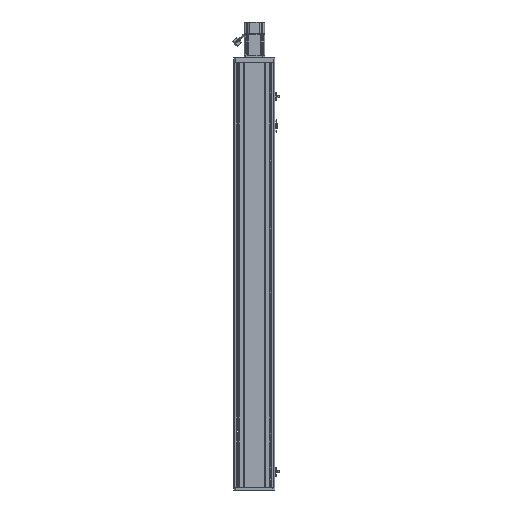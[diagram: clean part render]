
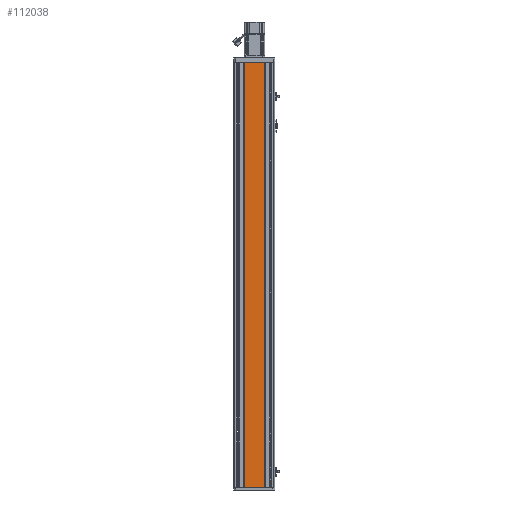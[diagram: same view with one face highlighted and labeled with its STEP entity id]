
A CAD part, front view. The second image highlights one B-rep face of the part: STEP entity #112038.
In plain terms, the highlighted planar face has unit normal (0, -1, 0).
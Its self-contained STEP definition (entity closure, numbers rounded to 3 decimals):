
#482 = DIRECTION ( 'NONE',  ( 0., 0., 1. ) ) ;
#4554 = LINE ( 'NONE', #93142, #69941 ) ;
#4802 = DIRECTION ( 'NONE',  ( -1., 0., 0. ) ) ;
#5593 = AXIS2_PLACEMENT_3D ( 'NONE', #67517, #21201, #86200 ) ;
#7280 = VERTEX_POINT ( 'NONE', #8672 ) ;
#8672 = CARTESIAN_POINT ( 'NONE',  ( 30., 0., -1246.5 ) ) ;
#9028 = ORIENTED_EDGE ( 'NONE', *, *, #117853, .F. ) ;
#14297 = ORIENTED_EDGE ( 'NONE', *, *, #92683, .T. ) ;
#15997 = DIRECTION ( 'NONE',  ( -1., 0., 0. ) ) ;
#20868 = DIRECTION ( 'NONE',  ( 0., 0., 1. ) ) ;
#20909 = EDGE_CURVE ( 'NONE', #7280, #75842, #32126, .T. ) ;
#21201 = DIRECTION ( 'NONE',  ( 0., 1., 0. ) ) ;
#32126 = LINE ( 'NONE', #97421, #106306 ) ;
#34001 = VECTOR ( 'NONE', #482, 1000. ) ;
#48005 = PLANE ( 'NONE',  #5593 ) ;
#50761 = CARTESIAN_POINT ( 'NONE',  ( 30., 0., 0. ) ) ;
#53308 = CARTESIAN_POINT ( 'NONE',  ( 30., 0., 0. ) ) ;
#54002 = FACE_OUTER_BOUND ( 'NONE', #68197, .T. ) ;
#57438 = EDGE_CURVE ( 'NONE', #84078, #83672, #88106, .T. ) ;
#60460 = VECTOR ( 'NONE', #15997, 1000. ) ;
#63842 = ORIENTED_EDGE ( 'NONE', *, *, #20909, .F. ) ;
#65446 = CARTESIAN_POINT ( 'NONE',  ( 30., 0., -1246.5 ) ) ;
#67517 = CARTESIAN_POINT ( 'NONE',  ( 30., 0., -1246.5 ) ) ;
#68197 = EDGE_LOOP ( 'NONE', ( #117777, #9028, #63842, #14297 ) ) ;
#69941 = VECTOR ( 'NONE', #20868, 1000. ) ;
#75842 = VERTEX_POINT ( 'NONE', #111792 ) ;
#82547 = CARTESIAN_POINT ( 'NONE',  ( -30., 0., 0. ) ) ;
#83672 = VERTEX_POINT ( 'NONE', #82547 ) ;
#84078 = VERTEX_POINT ( 'NONE', #50761 ) ;
#86200 = DIRECTION ( 'NONE',  ( -1., 0., 0. ) ) ;
#88106 = LINE ( 'NONE', #53308, #60460 ) ;
#92683 = EDGE_CURVE ( 'NONE', #7280, #84078, #108189, .T. ) ;
#93142 = CARTESIAN_POINT ( 'NONE',  ( -30., 0., -1246.5 ) ) ;
#97421 = CARTESIAN_POINT ( 'NONE',  ( 30., 0., -1246.5 ) ) ;
#106306 = VECTOR ( 'NONE', #4802, 1000. ) ;
#108189 = LINE ( 'NONE', #65446, #34001 ) ;
#111792 = CARTESIAN_POINT ( 'NONE',  ( -30., 0., -1246.5 ) ) ;
#112038 = ADVANCED_FACE ( 'NONE', ( #54002 ), #48005, .F. ) ;
#117777 = ORIENTED_EDGE ( 'NONE', *, *, #57438, .T. ) ;
#117853 = EDGE_CURVE ( 'NONE', #75842, #83672, #4554, .T. ) ;
